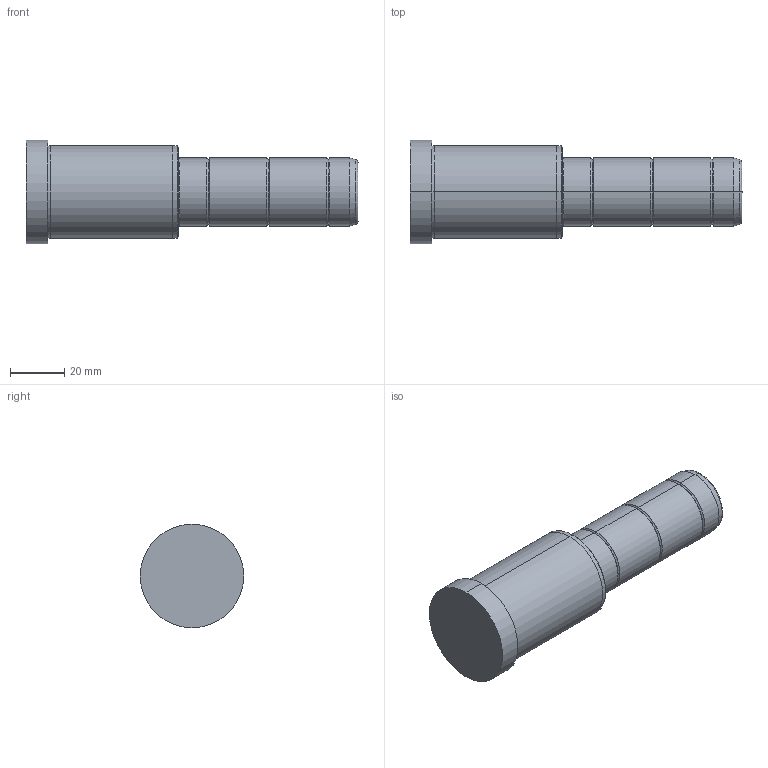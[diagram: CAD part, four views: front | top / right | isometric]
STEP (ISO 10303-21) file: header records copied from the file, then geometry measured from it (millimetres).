
FILE_DESCRIPTION( ( 'STEP AP203' ), '1' );
FILE_NAME( 'C:/Projects/D02 - 25x56x66.step', '2002-12-31T22:26:24', ( ' ' ), ( ' ' ), 'XStep 1.0', ' ', ' ' );
FILE_SCHEMA( ( 'CONFIG_CONTROL_DESIGN' ) );
Length unit declared in the file: metre
Products named in the file (1): 1
Bounding box: 122 x 38 x 38 mm (x, y, z)
Volume: 84898 mm3; surface area: 13538.2 mm2
Topology: 1 solids, 1 shells, 42 faces, 82 edges, 46 vertices
Faces by surface type: bspline 22, revolution 20
Entity records: 1325 total; most frequent: CARTESIAN_POINT 517, ORIENTED_EDGE 164, DIRECTION 134, EDGE_CURVE 82, AXIS2_PLACEMENT_3D 47, EDGE_LOOP 46, VERTEX_POINT 46, CIRCLE 46
